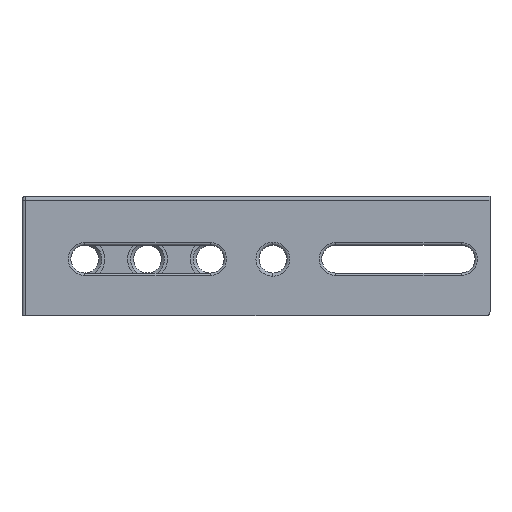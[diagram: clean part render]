
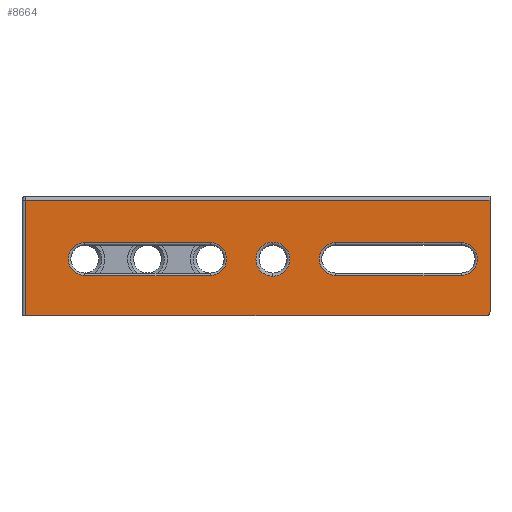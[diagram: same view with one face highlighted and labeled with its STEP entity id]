
A CAD part, front view. The second image highlights one B-rep face of the part: STEP entity #8664.
In plain terms, the highlighted planar face has unit normal (0, -1, 0).
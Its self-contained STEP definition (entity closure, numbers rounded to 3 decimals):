
#1035 = VERTEX_POINT ( 'NONE', #38262 ) ;
#1323 = CARTESIAN_POINT ( 'NONE',  ( 0., 0., -95. ) ) ;
#1668 = EDGE_LOOP ( 'NONE', ( #3384, #43521, #22414, #33697, #39206 ) ) ;
#2217 = EDGE_LOOP ( 'NONE', ( #31070, #37561, #15978, #21308 ) ) ;
#2386 = DIRECTION ( 'NONE',  ( 0., 1., 0. ) ) ;
#2964 = FACE_BOUND ( 'NONE', #2217, .T. ) ;
#3384 = ORIENTED_EDGE ( 'NONE', *, *, #7258, .T. ) ;
#3392 = CIRCLE ( 'NONE', #37969, 13.575 ) ;
#4091 = CIRCLE ( 'NONE', #28825, 13.075 ) ;
#4426 = VERTEX_POINT ( 'NONE', #23765 ) ;
#4879 = LINE ( 'NONE', #41572, #39706 ) ;
#5151 = EDGE_CURVE ( 'NONE', #10179, #12775, #32291, .T. ) ;
#5367 = LINE ( 'NONE', #32596, #9867 ) ;
#5581 = DIRECTION ( 'NONE',  ( 0., 0., -1. ) ) ;
#5715 = AXIS2_PLACEMENT_3D ( 'NONE', #9913, #10352, #27173 ) ;
#6763 = VERTEX_POINT ( 'NONE', #42267 ) ;
#6904 = EDGE_LOOP ( 'NONE', ( #37249, #17409, #33970, #30374 ) ) ;
#7258 = EDGE_CURVE ( 'NONE', #1035, #11099, #23734, .T. ) ;
#7746 = CIRCLE ( 'NONE', #43061, 13.075 ) ;
#7862 = EDGE_CURVE ( 'NONE', #41854, #4426, #22390, .T. ) ;
#7941 = DIRECTION ( 'NONE',  ( 1., 0., 0. ) ) ;
#8110 = DIRECTION ( 'NONE',  ( 0., 1., 0. ) ) ;
#8115 = EDGE_CURVE ( 'NONE', #30249, #29285, #4091, .T. ) ;
#8664 = ADVANCED_FACE ( 'NONE', ( #37004, #2964, #37431, #33490 ), #43614, .T. ) ;
#9347 = VERTEX_POINT ( 'NONE', #39933 ) ;
#9503 = CARTESIAN_POINT ( 'NONE',  ( 350., 0., -63.075 ) ) ;
#9592 = CARTESIAN_POINT ( 'NONE',  ( 0., 0., -3. ) ) ;
#9802 = DIRECTION ( 'NONE',  ( 0., 1., 0. ) ) ;
#9867 = VECTOR ( 'NONE', #42506, 1000. ) ;
#9913 = CARTESIAN_POINT ( 'NONE',  ( 350., 0., -50. ) ) ;
#10179 = VERTEX_POINT ( 'NONE', #14375 ) ;
#10352 = DIRECTION ( 'NONE',  ( 0., 1., 0. ) ) ;
#10468 = DIRECTION ( 'NONE',  ( -1., 0., 0. ) ) ;
#10963 = VECTOR ( 'NONE', #41974, 1000. ) ;
#11099 = VERTEX_POINT ( 'NONE', #25493 ) ;
#11172 = CIRCLE ( 'NONE', #30305, 3. ) ;
#11341 = EDGE_LOOP ( 'NONE', ( #33547, #20246 ) ) ;
#11498 = VECTOR ( 'NONE', #30951, 1000. ) ;
#11927 = EDGE_CURVE ( 'NONE', #4426, #43134, #34078, .T. ) ;
#12395 = EDGE_CURVE ( 'NONE', #9347, #6763, #18906, .T. ) ;
#12695 = EDGE_CURVE ( 'NONE', #12775, #19732, #11172, .T. ) ;
#12775 = VERTEX_POINT ( 'NONE', #37602 ) ;
#12906 = CARTESIAN_POINT ( 'NONE',  ( 373., 0., -92. ) ) ;
#14375 = CARTESIAN_POINT ( 'NONE',  ( 3., 0., -95. ) ) ;
#15594 = VECTOR ( 'NONE', #10468, 1000. ) ;
#15978 = ORIENTED_EDGE ( 'NONE', *, *, #39434, .T. ) ;
#16573 = CARTESIAN_POINT ( 'NONE',  ( 3., 0., -95. ) ) ;
#17014 = CIRCLE ( 'NONE', #5715, 13.075 ) ;
#17088 = DIRECTION ( 'NONE',  ( 0., -1., 0. ) ) ;
#17114 = LINE ( 'NONE', #30633, #15594 ) ;
#17409 = ORIENTED_EDGE ( 'NONE', *, *, #7862, .T. ) ;
#18339 = DIRECTION ( 'NONE',  ( 1., 0., 0. ) ) ;
#18906 = CIRCLE ( 'NONE', #43613, 13.575 ) ;
#18941 = CARTESIAN_POINT ( 'NONE',  ( 250., 0., -50. ) ) ;
#19389 = CARTESIAN_POINT ( 'NONE',  ( 200., 0., -50. ) ) ;
#19732 = VERTEX_POINT ( 'NONE', #12906 ) ;
#20045 = CARTESIAN_POINT ( 'NONE',  ( 350., 0., -36.925 ) ) ;
#20246 = ORIENTED_EDGE ( 'NONE', *, *, #12395, .T. ) ;
#20409 = CARTESIAN_POINT ( 'NONE',  ( 50., 0., -36.925 ) ) ;
#21308 = ORIENTED_EDGE ( 'NONE', *, *, #8115, .T. ) ;
#21317 = EDGE_CURVE ( 'NONE', #29285, #31422, #43043, .T. ) ;
#22165 = CARTESIAN_POINT ( 'NONE',  ( 50., 0., -50. ) ) ;
#22390 = CIRCLE ( 'NONE', #32379, 13.075 ) ;
#22414 = ORIENTED_EDGE ( 'NONE', *, *, #5151, .T. ) ;
#22711 = DIRECTION ( 'NONE',  ( -1., 0., 0. ) ) ;
#23719 = DIRECTION ( 'NONE',  ( 0., 0., -1. ) ) ;
#23734 = LINE ( 'NONE', #9592, #40732 ) ;
#23765 = CARTESIAN_POINT ( 'NONE',  ( 250., 0., -36.925 ) ) ;
#25452 = EDGE_CURVE ( 'NONE', #6763, #9347, #3392, .T. ) ;
#25493 = CARTESIAN_POINT ( 'NONE',  ( 3., 0., -3. ) ) ;
#26259 = CARTESIAN_POINT ( 'NONE',  ( 50., 0., -63.075 ) ) ;
#26614 = CARTESIAN_POINT ( 'NONE',  ( 200., 0., -50. ) ) ;
#27001 = AXIS2_PLACEMENT_3D ( 'NONE', #27057, #17088, #23719 ) ;
#27057 = CARTESIAN_POINT ( 'NONE',  ( 0., 0., -95. ) ) ;
#27173 = DIRECTION ( 'NONE',  ( 0., 0., -1. ) ) ;
#27647 = CARTESIAN_POINT ( 'NONE',  ( 350., 0., -36.925 ) ) ;
#27725 = CARTESIAN_POINT ( 'NONE',  ( 150., 0., -36.925 ) ) ;
#28721 = DIRECTION ( 'NONE',  ( 0., 1., 0. ) ) ;
#28825 = AXIS2_PLACEMENT_3D ( 'NONE', #31580, #8110, #41927 ) ;
#29285 = VERTEX_POINT ( 'NONE', #35850 ) ;
#29526 = VERTEX_POINT ( 'NONE', #9503 ) ;
#29671 = DIRECTION ( 'NONE',  ( 0., -1., 0. ) ) ;
#29861 = LINE ( 'NONE', #16573, #11498 ) ;
#30017 = DIRECTION ( 'NONE',  ( 0., 0., -1. ) ) ;
#30249 = VERTEX_POINT ( 'NONE', #27725 ) ;
#30305 = AXIS2_PLACEMENT_3D ( 'NONE', #40690, #29671, #40046 ) ;
#30374 = ORIENTED_EDGE ( 'NONE', *, *, #34583, .T. ) ;
#30401 = DIRECTION ( 'NONE',  ( -1., 0., 0. ) ) ;
#30633 = CARTESIAN_POINT ( 'NONE',  ( 250., 0., -63.075 ) ) ;
#30951 = DIRECTION ( 'NONE',  ( 0., 0., -1. ) ) ;
#31070 = ORIENTED_EDGE ( 'NONE', *, *, #21317, .T. ) ;
#31354 = EDGE_CURVE ( 'NONE', #19732, #1035, #5367, .T. ) ;
#31404 = EDGE_CURVE ( 'NONE', #31422, #34034, #7746, .T. ) ;
#31422 = VERTEX_POINT ( 'NONE', #31940 ) ;
#31580 = CARTESIAN_POINT ( 'NONE',  ( 150., 0., -50. ) ) ;
#31940 = CARTESIAN_POINT ( 'NONE',  ( 50., 0., -63.075 ) ) ;
#32291 = LINE ( 'NONE', #1323, #10963 ) ;
#32379 = AXIS2_PLACEMENT_3D ( 'NONE', #18941, #2386, #30017 ) ;
#32596 = CARTESIAN_POINT ( 'NONE',  ( 373., 0., -95. ) ) ;
#33490 = FACE_OUTER_BOUND ( 'NONE', #1668, .T. ) ;
#33547 = ORIENTED_EDGE ( 'NONE', *, *, #25452, .T. ) ;
#33697 = ORIENTED_EDGE ( 'NONE', *, *, #12695, .T. ) ;
#33970 = ORIENTED_EDGE ( 'NONE', *, *, #11927, .T. ) ;
#34034 = VERTEX_POINT ( 'NONE', #20409 ) ;
#34078 = LINE ( 'NONE', #27647, #37536 ) ;
#34583 = EDGE_CURVE ( 'NONE', #43134, #29526, #17014, .T. ) ;
#34879 = EDGE_CURVE ( 'NONE', #29526, #41854, #17114, .T. ) ;
#35850 = CARTESIAN_POINT ( 'NONE',  ( 150., 0., -63.075 ) ) ;
#36704 = CARTESIAN_POINT ( 'NONE',  ( 250., 0., -63.075 ) ) ;
#36798 = DIRECTION ( 'NONE',  ( 0., 0., -1. ) ) ;
#37004 = FACE_BOUND ( 'NONE', #11341, .T. ) ;
#37249 = ORIENTED_EDGE ( 'NONE', *, *, #34879, .T. ) ;
#37431 = FACE_BOUND ( 'NONE', #6904, .T. ) ;
#37536 = VECTOR ( 'NONE', #7941, 1000. ) ;
#37561 = ORIENTED_EDGE ( 'NONE', *, *, #31404, .T. ) ;
#37602 = CARTESIAN_POINT ( 'NONE',  ( 370., 0., -95. ) ) ;
#37969 = AXIS2_PLACEMENT_3D ( 'NONE', #19389, #28721, #42189 ) ;
#38262 = CARTESIAN_POINT ( 'NONE',  ( 373., 0., -3. ) ) ;
#38969 = DIRECTION ( 'NONE',  ( 0., 1., 0. ) ) ;
#39206 = ORIENTED_EDGE ( 'NONE', *, *, #31354, .T. ) ;
#39434 = EDGE_CURVE ( 'NONE', #34034, #30249, #4879, .T. ) ;
#39706 = VECTOR ( 'NONE', #18339, 1000. ) ;
#39770 = EDGE_CURVE ( 'NONE', #11099, #10179, #29861, .T. ) ;
#39933 = CARTESIAN_POINT ( 'NONE',  ( 200., 0., -36.425 ) ) ;
#40046 = DIRECTION ( 'NONE',  ( 0., 0., -1. ) ) ;
#40690 = CARTESIAN_POINT ( 'NONE',  ( 370., 0., -92. ) ) ;
#40732 = VECTOR ( 'NONE', #30401, 1000. ) ;
#41572 = CARTESIAN_POINT ( 'NONE',  ( 150., 0., -36.925 ) ) ;
#41854 = VERTEX_POINT ( 'NONE', #36704 ) ;
#41927 = DIRECTION ( 'NONE',  ( 0., 0., -1. ) ) ;
#41974 = DIRECTION ( 'NONE',  ( 1., 0., 0. ) ) ;
#42189 = DIRECTION ( 'NONE',  ( 0., 0., -1. ) ) ;
#42267 = CARTESIAN_POINT ( 'NONE',  ( 200., 0., -63.575 ) ) ;
#42506 = DIRECTION ( 'NONE',  ( 0., 0., 1. ) ) ;
#43043 = LINE ( 'NONE', #26259, #43385 ) ;
#43061 = AXIS2_PLACEMENT_3D ( 'NONE', #22165, #38969, #5581 ) ;
#43134 = VERTEX_POINT ( 'NONE', #20045 ) ;
#43385 = VECTOR ( 'NONE', #22711, 1000. ) ;
#43521 = ORIENTED_EDGE ( 'NONE', *, *, #39770, .T. ) ;
#43613 = AXIS2_PLACEMENT_3D ( 'NONE', #26614, #9802, #36798 ) ;
#43614 = PLANE ( 'NONE',  #27001 ) ;
